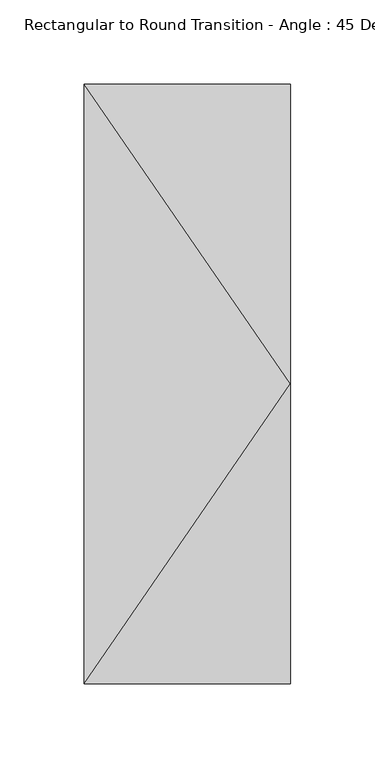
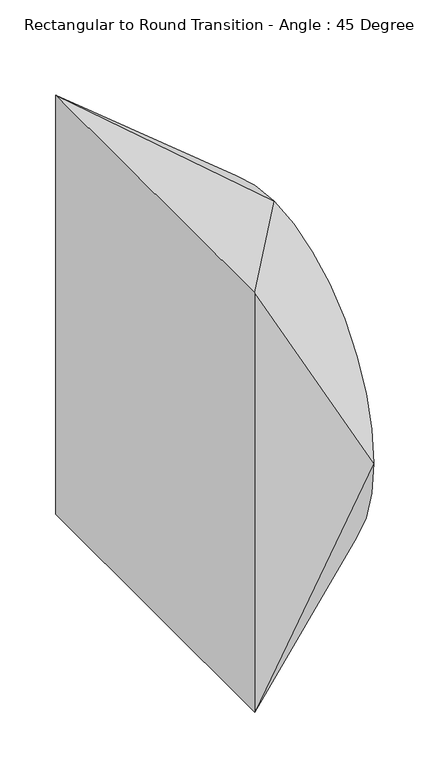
"""IFC4 building model written with IfcOpenShell, lengths in millimetres: duct fitting geometry, Rectangular to Round Transition - Angle : 45 Degree."""

from ifc_helpers import new_model, si_unit, frame, origin, place, context, project, spatial, circle_curve, source, transform, mapped, element, save
from ifc_brep_helpers import plane_surface, spline_surface, advanced_brep


def rectangular_to_round_transition_angle_45_degree_42cd8d9c(model_context):
    return source(origin(), model_context, "Body", "AdvancedBrep", [
        advanced_brep(
        [(122.642049, 0.0, 177.8), (122.642049, -177.8, 0.0), (122.642049, 0.0, -177.8), (122.642049, 177.8, 0.0), (0.0, -177.8, 228.6), (0.0, 177.8, 228.6), (0.0, 177.8, -228.6), (0.0, -177.8, -228.6)],
        [
            (0, 1, circle_curve(frame((122.642049, 0.0, 0.0), z_axis=(1.0, 0.0, 0.0), x_axis=(0.0, 1.0, 0.0)), 177.8)),
            (1, 2, circle_curve(frame((122.642049, 0.0, 0.0), z_axis=(1.0, 0.0, 0.0), x_axis=(0.0, 1.0, 0.0)), 177.8)),
            (2, 3, circle_curve(frame((122.642049, 0.0, 0.0), z_axis=(1.0, 0.0, 0.0), x_axis=(0.0, 1.0, 0.0)), 177.8)),
            (3, 0, circle_curve(frame((122.642049, 0.0, 0.0), z_axis=(1.0, 0.0, 0.0), x_axis=(0.0, 1.0, 0.0)), 177.8)),
            (4, 5),
            (5, 6),
            (6, 7),
            (7, 4),
            (0, 4),
            (4, 1),
            (7, 1),
            (7, 2),
            (6, 2),
            (6, 3),
            (5, 3),
            (5, 0),
        ],
        [
            plane_surface(frame((122.642049, 0.0, 0.0), z_axis=(1.0, 0.0, 0.0), x_axis=(0.0, 0.0, -1.0))),
            plane_surface(frame((0.0, 0.0, 0.0), z_axis=(-1.0, 0.0, 0.0), x_axis=(0.0, 0.0, -1.0))),
            spline_surface(2, 1, [[(0.0, -177.8, 228.6), (122.642049, 0.0, 177.8)], [(0.0, -177.8, 228.6), (122.642049, -177.8, 177.8)], [(0.0, -177.8, 228.6), (122.642049, -177.8, 0.0)]], [3, 3], [2, 2], [0.0, 1.0], [0.0, 1.0], weights=[[1.0, 1.0], [0.7071067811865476, 0.7071067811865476], [1.0, 1.0]]),
            plane_surface(frame((0.0, -177.8, 0.0), z_axis=(0.0, -1.0, 0.0), x_axis=(0.0, 0.0, -1.0))),
            spline_surface(2, 1, [[(0.0, -177.8, -228.6), (122.642049, -177.8, 0.0)], [(0.0, -177.8, -228.6), (122.642049, -177.8, -177.8)], [(0.0, -177.8, -228.6), (122.642049, 0.0, -177.8)]], [3, 3], [2, 2], [0.0, 1.0], [0.0, 1.0], weights=[[1.0, 1.0], [0.7071067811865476, 0.7071067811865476], [1.0, 1.0]]),
            plane_surface(frame((0.0, 0.0, -228.6), z_axis=(0.3826834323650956, 0.0, -0.9238795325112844), x_axis=(0.0, 1.0, 0.0))),
            spline_surface(2, 1, [[(0.0, 177.8, -228.6), (122.642049, 0.0, -177.8)], [(0.0, 177.8, -228.6), (122.642049, 177.8, -177.8)], [(0.0, 177.8, -228.6), (122.642049, 177.8, 0.0)]], [3, 3], [2, 2], [0.0, 1.0], [0.0, 1.0], weights=[[1.0, 1.0], [0.7071067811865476, 0.7071067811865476], [1.0, 1.0]]),
            plane_surface(frame((0.0, 177.8, 0.0), z_axis=(0.0, 1.0, 0.0), x_axis=(0.0, 0.0, 1.0))),
            spline_surface(2, 1, [[(0.0, 177.8, 228.6), (122.642049, 177.8, 0.0)], [(0.0, 177.8, 228.6), (122.642049, 177.8, 177.8)], [(0.0, 177.8, 228.6), (122.642049, 0.0, 177.8)]], [3, 3], [2, 2], [0.0, 1.0], [0.0, 1.0], weights=[[1.0, 1.0], [0.7071067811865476, 0.7071067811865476], [1.0, 1.0]]),
            plane_surface(frame((0.0, 0.0, 228.6), z_axis=(0.3826834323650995, 0.0, 0.9238795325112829), x_axis=(0.0, -1.0, 0.0))),
        ],
        [
            (0, [[1, 2, 3, 4]]),
            (1, [[5, 6, 7, 8]]),
            (2, [[-1, 9, 10]]),
            (3, [[-8, 11, -10]]),
            (4, [[-2, -11, 12]]),
            (5, [[-7, 13, -12]]),
            (6, [[-3, -13, 14]]),
            (7, [[-6, 15, -14]]),
            (8, [[-4, -15, 16]]),
            (9, [[-5, -9, -16]]),
        ],
    ),
    ])


if __name__ == "__main__":
    model = new_model("IFC4")
    model_context = context("Model", 3, world=origin())
    ifc_project = project(units=[si_unit("LENGTHUNIT", "METRE", prefix="MILLI")], contexts=[model_context])
    site = spatial("IfcSite", under=ifc_project)
    building = spatial("IfcBuilding", under=site)
    placement = place(None, origin())
    rectangular_to_round_transition_angle_45_degree_shape = rectangular_to_round_transition_angle_45_degree_42cd8d9c(model_context)
    element("IfcDuctFitting", 1, ObjectType="Rectangular to Round Transition - Angle : 45 Degree", at=placement, inside=building, context=model_context, shape_type="MappedRepresentation", body=[
        mapped(rectangular_to_round_transition_angle_45_degree_shape, transform((0.0, 0.0, 0.0), x_axis=(1.0, 0.0, 0.0), y_axis=(0.0, 1.0, 0.0), z_axis=(0.0, 0.0, 1.0))),
    ])
    save(model, "model.ifc")
